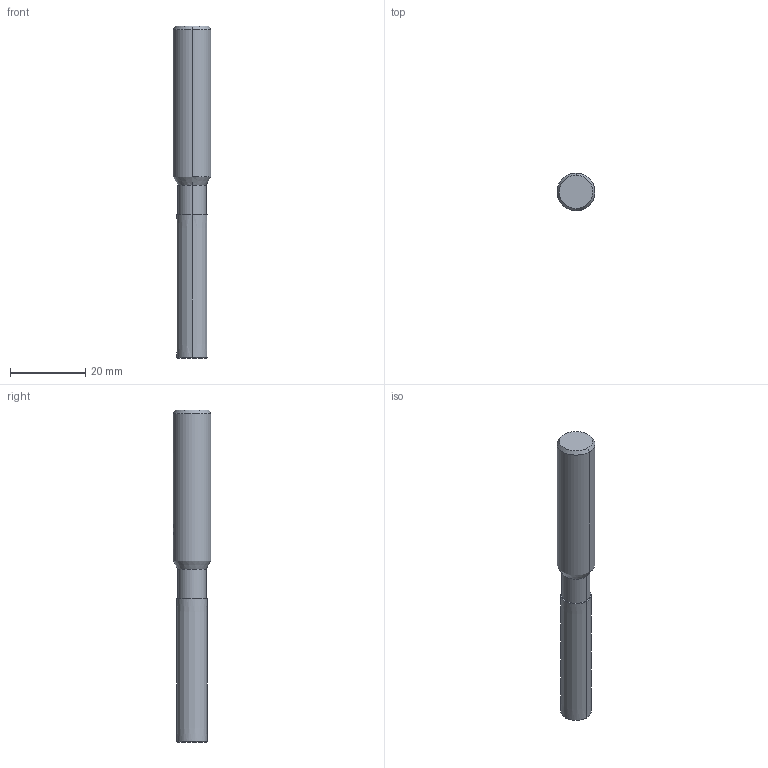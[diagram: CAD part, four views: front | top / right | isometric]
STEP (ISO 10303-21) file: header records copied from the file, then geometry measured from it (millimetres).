
FILE_DESCRIPTION(('no description'),'unknown implementation level');
FILE_NAME('solid3qJh0lKS_DyjoZlSvRSC057V9es_1.STP',' ',('CIMSOURCE GmbH'),('CADClick - KiM GmbH - www.kimweb.de'),'unknown preprocess','ACIS','unknown authorization');
FILE_SCHEMA(('automotive_design'));
Length unit declared in the file: millimetre
Products named in the file (2): NOCUT; CUT
Bounding box: 10 x 10 x 88 mm (x, y, z)
Volume: 5519.1 mm3; surface area: 3593.5 mm2
Topology: 2 solids, 2 shells, 43 faces, 97 edges, 60 vertices
Faces by surface type: cone 16, cylinder 16, plane 11
Entity records: 2618 total; most frequent: CARTESIAN_POINT 456, DIRECTION 221, STYLED_ITEM 202, PRESENTATION_STYLE_ASSIGNMENT 202, COLOUR_RGB 202, ORIENTED_EDGE 194, EDGE_CURVE 97, CURVE_STYLE 97
